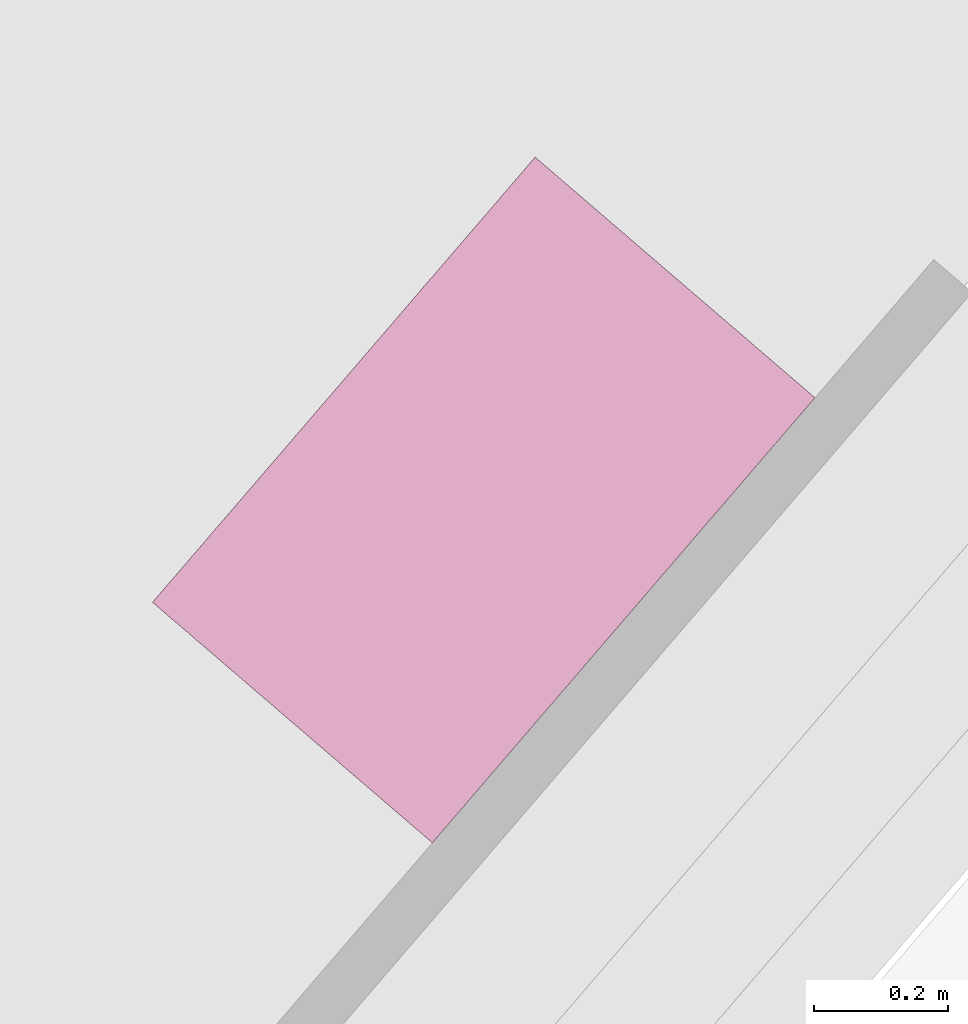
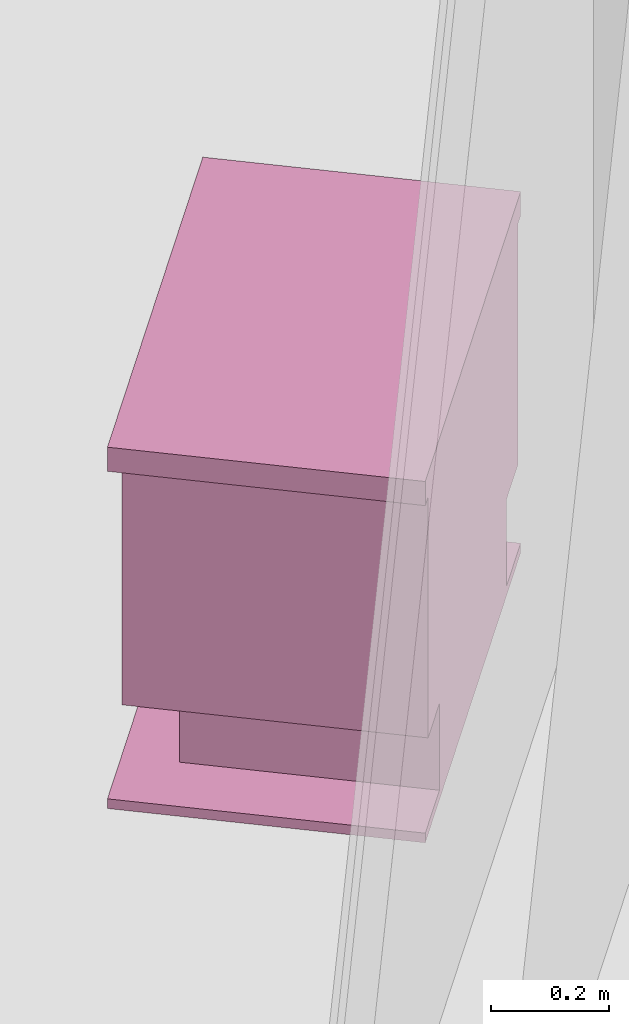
# One storey, part 36 of 52: 1 furnishing.
"""IFC2X3 building model written with IfcOpenShell, lengths in metres."""

from ifc_helpers import new_model, entity, si_unit, converted_unit, derived_unit, money_unit, direction, frame, origin_with_axes, place, context, subcontext, project, spatial, open_shell, faceted_brep, surface_model, type_object, element, save


model = new_model("IFC2X3")

# Units and contexts
model_context = context("Model", 3, precision=1e-05, world=origin_with_axes(), true_north=direction((0.0, 1.0)))
body_context = subcontext(model_context, "Body", "Model", "MODEL_VIEW")
ifc_project = project(units=[si_unit("LENGTHUNIT", "METRE"), si_unit("AREAUNIT", "SQUARE_METRE"), si_unit("VOLUMEUNIT", "CUBIC_METRE"), converted_unit("PLANEANGLEUNIT", "DEGREE", entity("IfcPlaneAngleMeasure", 0.0174532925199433), si_unit("PLANEANGLEUNIT", "RADIAN"), dimensions=[0, 0, 0, 0, 0, 0, 0]), money_unit("EUR"), converted_unit("TIMEUNIT", "Year", entity("IfcTimeMeasure", 31556926.0), si_unit("TIMEUNIT", "SECOND"), dimensions=[0, 0, 1, 0, 0, 0, 0]), si_unit("MASSUNIT", "GRAM", prefix="KILO"), si_unit("THERMODYNAMICTEMPERATUREUNIT", "DEGREE_CELSIUS"), si_unit("LUMINOUSINTENSITYUNIT", "LUMEN"), si_unit("ENERGYUNIT", "JOULE", prefix="MEGA"), derived_unit("THERMALCONDUCTANCEUNIT", [(si_unit("POWERUNIT", "WATT"), 1), (si_unit("LENGTHUNIT", "METRE"), -1), (si_unit("THERMODYNAMICTEMPERATUREUNIT", "KELVIN"), -1)]), derived_unit("SPECIFICHEATCAPACITYUNIT", [(si_unit("ENERGYUNIT", "JOULE"), 1), (si_unit("MASSUNIT", "GRAM", prefix="KILO"), -1), (si_unit("THERMODYNAMICTEMPERATUREUNIT", "KELVIN"), -1)]), derived_unit("MASSDENSITYUNIT", [(si_unit("MASSUNIT", "GRAM", prefix="KILO"), 1), (si_unit("VOLUMEUNIT", "CUBIC_METRE"), -1)])], contexts=[model_context])

# Site, building, storey
site_placement = place(None, frame((-3.949935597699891, 1.740105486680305, 0.0), z_axis=(0.0, 0.0, 1.0), x_axis=(0.8799804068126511, -0.475009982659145, 0.0)))
site = spatial("IfcSite", under=ifc_project, at=site_placement, Name="Gelände", CompositionType="ELEMENT")
building_placement = place(site_placement, origin_with_axes())
building = spatial("IfcBuilding", under=site, at=building_placement, Name="Gebäude", CompositionType="ELEMENT")
storey_placement = place(building_placement, origin_with_axes())
storey = spatial("IfcBuildingStorey", under=building, at=storey_placement, Name="Erdgeschoss", CompositionType="ELEMENT", Elevation=0.0)

# Furnishing
furnishing_element_type = type_object("IfcFurnishingElementType", Name="Kamin freistehend 22")
furnishing_placement = place(storey_placement, frame((26.90297477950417, 4.468362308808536, 0.0), z_axis=(0.0, 0.0, 1.0), x_axis=(-0.2133784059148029, -0.9769696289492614, 0.0)))
element("IfcFurnishingElement", 1, at=furnishing_placement, inside=storey, type_object=furnishing_element_type, Name="Objekt-0070", context=body_context, shape_type="SurfaceModel", body=[
    faceted_brep([(0.0, 0.0, 0.0), (0.0, 0.0, 0.02), (-0.875, 0.0, 0.02), (-0.875, 0.0, 0.0), (0.0, 0.5500841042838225, 0.0), (0.0, 0.5500841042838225, 0.02), (-0.875, 0.5500841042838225, 0.02), (-0.875, 0.5500841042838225, 0.0)], [[[0, 1, 2, 3]], [[4, 5, 1, 0]], [[1, 5, 6, 2]], [[3, 2, 6, 7]], [[0, 3, 7, 4]], [[7, 6, 5, 4]]]),
    faceted_brep([(-0.1296296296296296, 0.5500841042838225, 0.02), (-0.1296296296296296, 0.5500841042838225, 0.2), (-0.1296296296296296, 0.1000152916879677, 0.2), (-0.1296296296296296, 0.1000152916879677, 0.02), (-0.7453703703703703, 0.5500841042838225, 0.02), (-0.7453703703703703, 0.5500841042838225, 0.2), (-0.7453703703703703, 0.1000152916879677, 0.2), (-0.6805555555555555, 0.1000152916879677, 0.2), (-0.6805555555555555, 0.5000764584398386, 0.2), (-0.1944444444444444, 0.5000764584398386, 0.2), (-0.1944444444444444, 0.1000152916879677, 0.2), (-0.1944444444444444, 0.1000152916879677, 0.02), (-0.1944444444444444, 0.5000764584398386, 0.02), (-0.6805555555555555, 0.5000764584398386, 0.02), (-0.6805555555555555, 0.1000152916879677, 0.02), (-0.7453703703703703, 0.1000152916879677, 0.02)], [[[0, 1, 2, 3]], [[4, 5, 1, 0]], [[1, 5, 6, 7, 8, 9, 10, 2]], [[3, 2, 10, 11]], [[0, 3, 11, 12, 13, 14, 15, 4]], [[15, 6, 5, 4]], [[14, 7, 6, 15]], [[13, 8, 7, 14]], [[12, 9, 8, 13]], [[11, 10, 9, 12]]]),
    faceted_brep([(-0.6805555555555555, 0.130019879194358, 0.02), (-0.6805555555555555, 0.130019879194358, 0.2), (-0.6805555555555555, 0.1800275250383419, 0.2), (-0.6805555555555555, 0.1800275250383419, 0.02), (-0.1944444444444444, 0.130019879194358, 0.02), (-0.1944444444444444, 0.130019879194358, 0.2), (-0.1944444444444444, 0.1800275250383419, 0.2), (-0.1944444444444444, 0.1800275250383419, 0.02)], [[[0, 1, 2, 3]], [[4, 5, 1, 0]], [[1, 5, 6, 2]], [[3, 2, 6, 7]], [[0, 3, 7, 4]], [[7, 6, 5, 4]]]),
    faceted_brep([(-0.09074074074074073, 0.08001223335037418, 0.25), (-0.09074074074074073, 0.08001223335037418, 0.7), (-0.7842592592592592, 0.08001223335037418, 0.7), (-0.7842592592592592, 0.08001223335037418, 0.25), (-0.1555555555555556, 0.08001223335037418, 0.6000000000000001), (-0.1555555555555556, 0.08001223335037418, 0.35), (-0.7194444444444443, 0.08001223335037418, 0.35), (-0.7194444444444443, 0.08001223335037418, 0.6000000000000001), (-0.09074074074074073, 0.130019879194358, 0.25), (-0.09074074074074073, 0.130019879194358, 0.7), (-0.7842592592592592, 0.130019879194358, 0.7), (-0.7842592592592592, 0.130019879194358, 0.25), (-0.1555555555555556, 0.130019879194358, 0.6000000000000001), (-0.1555555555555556, 0.130019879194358, 0.35), (-0.7194444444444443, 0.130019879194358, 0.35), (-0.7194444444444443, 0.130019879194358, 0.6000000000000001)], [[[0, 1, 2, 3], [4, 5, 6, 7]], [[0, 8, 9, 1]], [[1, 9, 10, 2]], [[2, 10, 11, 3]], [[3, 11, 8, 0]], [[4, 12, 13, 5]], [[5, 13, 14, 6]], [[6, 14, 15, 7]], [[7, 15, 12, 4]], [[8, 11, 10, 9], [12, 15, 14, 13]]]),
    faceted_brep([(-0.1555555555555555, 0.09001376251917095, 0.35), (-0.1555555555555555, 0.09001376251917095, 0.6000000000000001), (-0.7194444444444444, 0.09001376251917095, 0.6000000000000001), (-0.7194444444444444, 0.09001376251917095, 0.35), (-0.1555555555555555, 0.1100168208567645, 0.6000000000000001), (-0.1555555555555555, 0.1100168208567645, 0.35), (-0.7194444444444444, 0.1100168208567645, 0.6000000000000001), (-0.7194444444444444, 0.1100168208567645, 0.35)], [[[0, 1, 2, 3]], [[4, 1, 0, 5]], [[6, 2, 1, 4]], [[7, 3, 2, 6]], [[5, 0, 3, 7]], [[5, 7, 6, 4]]]),
    faceted_brep([(0.0, 0.5500841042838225, 0.7), (0.0, 0.5500841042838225, 0.75), (0.0, 0.0, 0.75), (0.0, 0.0, 0.7), (-0.875, 0.5500841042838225, 0.7), (-0.875, 0.5500841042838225, 0.75), (-0.875, 0.0, 0.75), (-0.875, 0.0, 0.7)], [[[0, 1, 2, 3]], [[4, 5, 1, 0]], [[1, 5, 6, 2]], [[3, 2, 6, 7]], [[0, 3, 7, 4]], [[7, 6, 5, 4]]]),
    faceted_brep([(-0.02592592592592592, 0.02000305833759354, 0.2), (-0.02592592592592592, 0.02000305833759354, 0.7), (-0.09074074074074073, 0.02000305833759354, 0.7), (-0.09074074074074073, 0.02000305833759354, 0.2), (-0.02592592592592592, 0.5500841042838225, 0.2), (-0.02592592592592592, 0.5500841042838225, 0.7), (-0.8490740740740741, 0.5500841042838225, 0.7), (-0.8490740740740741, 0.02000305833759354, 0.7), (-0.7842592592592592, 0.02000305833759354, 0.7), (-0.7842592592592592, 0.5000764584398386, 0.7), (-0.09074074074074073, 0.5000764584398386, 0.7), (-0.09074074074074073, 0.5000764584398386, 0.2), (-0.7842592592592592, 0.5000764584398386, 0.2), (-0.7842592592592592, 0.02000305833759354, 0.2), (-0.8490740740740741, 0.02000305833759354, 0.2), (-0.8490740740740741, 0.5500841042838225, 0.2)], [[[0, 1, 2, 3]], [[4, 5, 1, 0]], [[1, 5, 6, 7, 8, 9, 10, 2]], [[3, 2, 10, 11]], [[0, 3, 11, 12, 13, 14, 15, 4]], [[15, 6, 5, 4]], [[14, 7, 6, 15]], [[13, 8, 7, 14]], [[12, 9, 8, 13]], [[11, 10, 9, 12]]]),
    faceted_brep([(-0.09074074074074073, 0.03000458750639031, 0.65), (-0.09074074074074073, 0.03000458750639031, 0.7000000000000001), (-0.7842592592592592, 0.03000458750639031, 0.7000000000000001), (-0.7842592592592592, 0.03000458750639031, 0.65), (-0.09074074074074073, 0.08001223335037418, 0.65), (-0.09074074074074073, 0.08001223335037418, 0.7000000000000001), (-0.7842592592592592, 0.08001223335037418, 0.7000000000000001), (-0.7842592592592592, 0.08001223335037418, 0.65)], [[[0, 1, 2, 3]], [[4, 5, 1, 0]], [[1, 5, 6, 2]], [[3, 2, 6, 7]], [[0, 3, 7, 4]], [[7, 6, 5, 4]]]),
    faceted_brep([(-0.09074074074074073, 0.5040770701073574, 0.2), (-0.09074074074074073, 0.5040770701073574, 0.25), (-0.09074074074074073, 0.08001223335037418, 0.25), (-0.09074074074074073, 0.08001223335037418, 0.2), (-0.7842592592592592, 0.5040770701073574, 0.2), (-0.7842592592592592, 0.5040770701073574, 0.25), (-0.7842592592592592, 0.08001223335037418, 0.25), (-0.7842592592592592, 0.08001223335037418, 0.2)], [[[0, 1, 2, 3]], [[4, 5, 1, 0]], [[1, 5, 6, 2]], [[3, 2, 6, 7]], [[0, 3, 7, 4]], [[7, 6, 5, 4]]]),
    faceted_brep([(-0.09074074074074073, 0.03000458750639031, 0.2), (-0.09074074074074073, 0.03000458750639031, 0.3), (-0.7842592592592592, 0.03000458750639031, 0.3), (-0.7842592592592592, 0.03000458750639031, 0.2), (-0.09074074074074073, 0.08001223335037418, 0.2), (-0.09074074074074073, 0.08001223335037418, 0.3), (-0.7842592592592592, 0.08001223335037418, 0.3), (-0.7842592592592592, 0.08001223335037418, 0.2)], [[[0, 1, 2, 3]], [[4, 5, 1, 0]], [[1, 5, 6, 2]], [[3, 2, 6, 7]], [[0, 3, 7, 4]], [[7, 6, 5, 4]]]),
    surface_model("IfcShellBasedSurfaceModel", [(-0.09074074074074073, 0.130019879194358, 0.3), (-0.09074074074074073, 0.1300198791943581, 0.6000000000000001), (-0.7842592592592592, 0.1300198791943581, 0.6000000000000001), (-0.7842592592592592, 0.130019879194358, 0.3)], [open_shell([[[0, 1, 2, 3]]])]),
])

save(model, "model.ifc")
